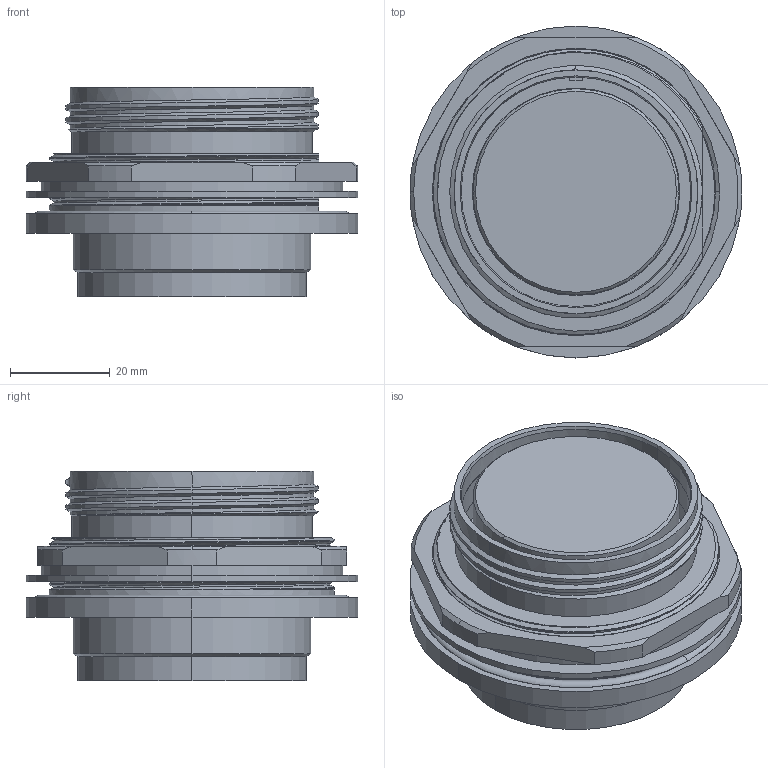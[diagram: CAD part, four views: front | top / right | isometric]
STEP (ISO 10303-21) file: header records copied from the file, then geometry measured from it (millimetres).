
FILE_DESCRIPTION (( 'STEP AP214' ), '1' );
FILE_NAME ('QLINK-RJTX-31XX-S00.STEP', '2025-09-30T21:51:56', ( '' ), ( '' ), 'SwSTEP 2.0', 'SolidWorks 2024', '' );
FILE_SCHEMA (( 'AUTOMOTIVE_DESIGN' ));
Length unit declared in the file: inch
Products named in the file (1): QLINK-RJTX-31XX-S00
Bounding box: 66.42 x 66.42 x 41.91 mm (x, y, z)
Volume: 80421.4 mm3; surface area: 28579 mm2
Topology: 3 solids, 3 shells, 177 faces, 457 edges, 295 vertices
Faces by surface type: cylinder 74, plane 34, cone 28, bspline 27, torus 14
Entity records: 12919 total; most frequent: CARTESIAN_POINT 8891, ORIENTED_EDGE 914, DIRECTION 762, EDGE_CURVE 457, AXIS2_PLACEMENT_3D 313, VERTEX_POINT 295, EDGE_LOOP 194, FACE_OUTER_BOUND 177
